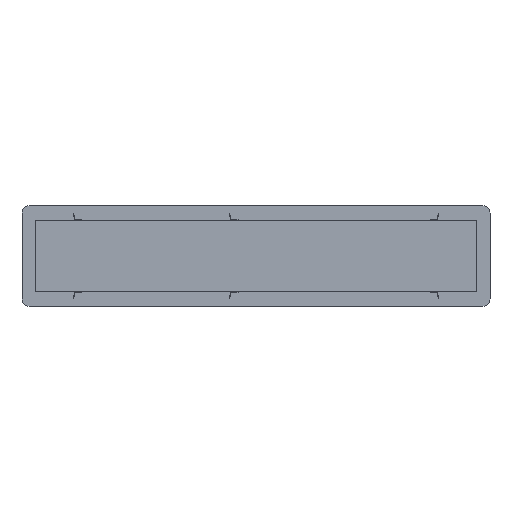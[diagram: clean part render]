
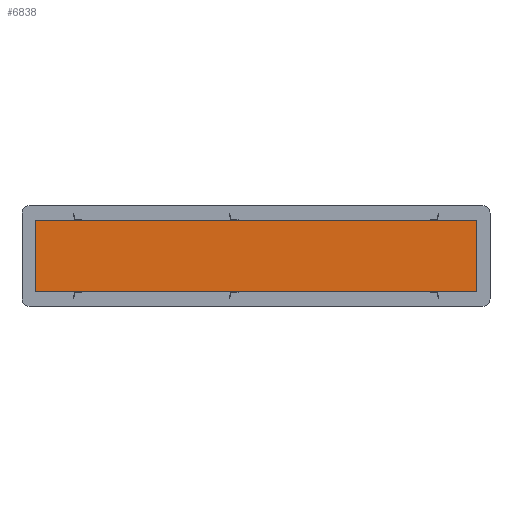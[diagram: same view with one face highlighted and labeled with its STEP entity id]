
A CAD part, front view. The second image highlights one B-rep face of the part: STEP entity #6838.
In plain terms, the highlighted planar face has unit normal (0, -1, 0).
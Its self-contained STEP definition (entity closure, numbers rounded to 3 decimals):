
#182 = ORIENTED_EDGE ( 'NONE', *, *, #21797, .T. ) ;
#920 = CARTESIAN_POINT ( 'NONE',  ( 925., -416.5, 150. ) ) ;
#1280 = VECTOR ( 'NONE', #7007, 1000. ) ;
#1379 = LINE ( 'NONE', #4906, #5816 ) ;
#1818 = VERTEX_POINT ( 'NONE', #21522 ) ;
#1885 = ORIENTED_EDGE ( 'NONE', *, *, #10875, .T. ) ;
#2755 = VERTEX_POINT ( 'NONE', #6582 ) ;
#3712 = VERTEX_POINT ( 'NONE', #920 ) ;
#3882 = ORIENTED_EDGE ( 'NONE', *, *, #10316, .T. ) ;
#4906 = CARTESIAN_POINT ( 'NONE',  ( 925., -416.5, -150. ) ) ;
#5330 = AXIS2_PLACEMENT_3D ( 'NONE', #16647, #18797, #9929 ) ;
#5816 = VECTOR ( 'NONE', #6816, 1000. ) ;
#6215 = VERTEX_POINT ( 'NONE', #18254 ) ;
#6582 = CARTESIAN_POINT ( 'NONE',  ( -925., -416.5, 150. ) ) ;
#6816 = DIRECTION ( 'NONE',  ( 0., 0., 1. ) ) ;
#6838 = ADVANCED_FACE ( 'NONE', ( #15274 ), #9712, .T. ) ;
#7007 = DIRECTION ( 'NONE',  ( 0., 0., -1. ) ) ;
#8324 = VECTOR ( 'NONE', #10084, 1000. ) ;
#9609 = CARTESIAN_POINT ( 'NONE',  ( 925., -416.5, -150. ) ) ;
#9712 = PLANE ( 'NONE',  #5330 ) ;
#9929 = DIRECTION ( 'NONE',  ( 0., 0., -1. ) ) ;
#10084 = DIRECTION ( 'NONE',  ( -1., 0., 0. ) ) ;
#10117 = EDGE_CURVE ( 'NONE', #3712, #2755, #11553, .T. ) ;
#10316 = EDGE_CURVE ( 'NONE', #6215, #1818, #14496, .T. ) ;
#10525 = CARTESIAN_POINT ( 'NONE',  ( -925., -416.5, -150. ) ) ;
#10875 = EDGE_CURVE ( 'NONE', #1818, #3712, #1379, .T. ) ;
#11553 = LINE ( 'NONE', #11663, #8324 ) ;
#11663 = CARTESIAN_POINT ( 'NONE',  ( 925., -416.5, 150. ) ) ;
#14496 = LINE ( 'NONE', #9609, #21031 ) ;
#14604 = DIRECTION ( 'NONE',  ( 1., 0., 0. ) ) ;
#15274 = FACE_OUTER_BOUND ( 'NONE', #17990, .T. ) ;
#16647 = CARTESIAN_POINT ( 'NONE',  ( 0., -416.5, 0. ) ) ;
#17329 = ORIENTED_EDGE ( 'NONE', *, *, #10117, .T. ) ;
#17700 = LINE ( 'NONE', #10525, #1280 ) ;
#17990 = EDGE_LOOP ( 'NONE', ( #182, #3882, #1885, #17329 ) ) ;
#18254 = CARTESIAN_POINT ( 'NONE',  ( -925., -416.5, -150. ) ) ;
#18797 = DIRECTION ( 'NONE',  ( 0., -1., 0. ) ) ;
#21031 = VECTOR ( 'NONE', #14604, 1000. ) ;
#21522 = CARTESIAN_POINT ( 'NONE',  ( 925., -416.5, -150. ) ) ;
#21797 = EDGE_CURVE ( 'NONE', #2755, #6215, #17700, .T. ) ;
